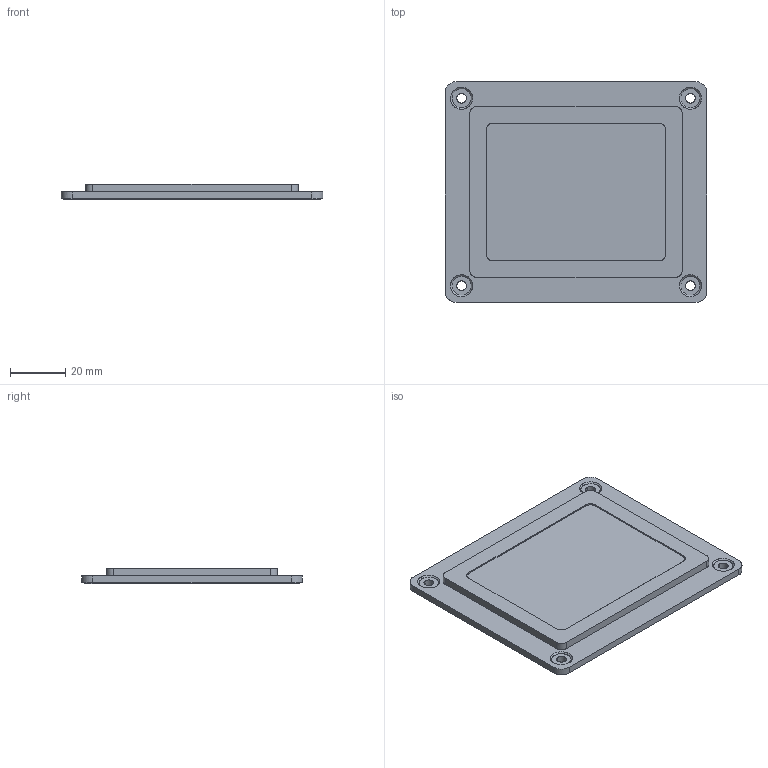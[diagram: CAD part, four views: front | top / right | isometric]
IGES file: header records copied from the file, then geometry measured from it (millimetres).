
Global section: file name: C:\Programme\CoreTechnologie\in\00BYK04Y02.igs; native system: CT CoreTechnologie 3D Evolution; preprocessor: 2005; author: assmuth; date: 070117.142138; units: millimetre
Bounding box: 95 x 80 x 5.8 mm (x, y, z)
Surface area: 19042 mm2 (no closed solid volume)
Topology: 0 solids, 0 shells, 71 faces, 358 edges, 358 vertices
Faces by surface type: bspline 71
